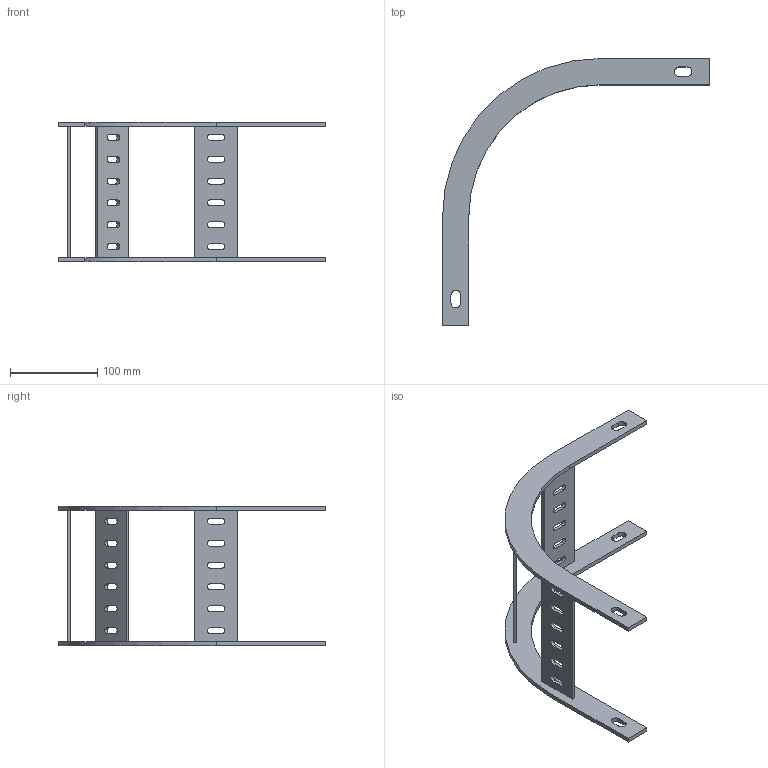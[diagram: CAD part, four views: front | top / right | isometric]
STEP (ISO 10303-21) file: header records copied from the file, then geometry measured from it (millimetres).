
FILE_DESCRIPTION(('Creo Elements/Direct Modeling STEP Export'),'2;1');
FILE_NAME('//pserver/office/EK/ME10-3D/3D-output/SLS 150F.stp','2020-03-10T15:14:03',(''),(''),'PTC Creo Elements/Direct Modeling STEP processor for AP214 (Solid Model)','PTC Creo Elements/Direct Modeling 19.0C 15-Aug-2015 (C) Parametric Technology GmbH','');
FILE_SCHEMA(('AUTOMOTIVE_DESIGN { 1 0 10303 214 1 1 1 1 }'));
Length unit declared in the file: millimetre
Products named in the file (1): SLS_150F
Bounding box: 305 x 305 x 160 mm (x, y, z)
Volume: 229550.9 mm3; surface area: 117578.2 mm2
Topology: 1 solids, 1 shells, 120 faces, 348 edges, 232 vertices
Faces by surface type: plane 72, cylinder 48
Entity records: 4086 total; most frequent: CARTESIAN_POINT 701, ORIENTED_EDGE 696, DIRECTION 686, EDGE_CURVE 348, VECTOR 252, LINE 252, VERTEX_POINT 232, AXIS2_PLACEMENT_3D 217
